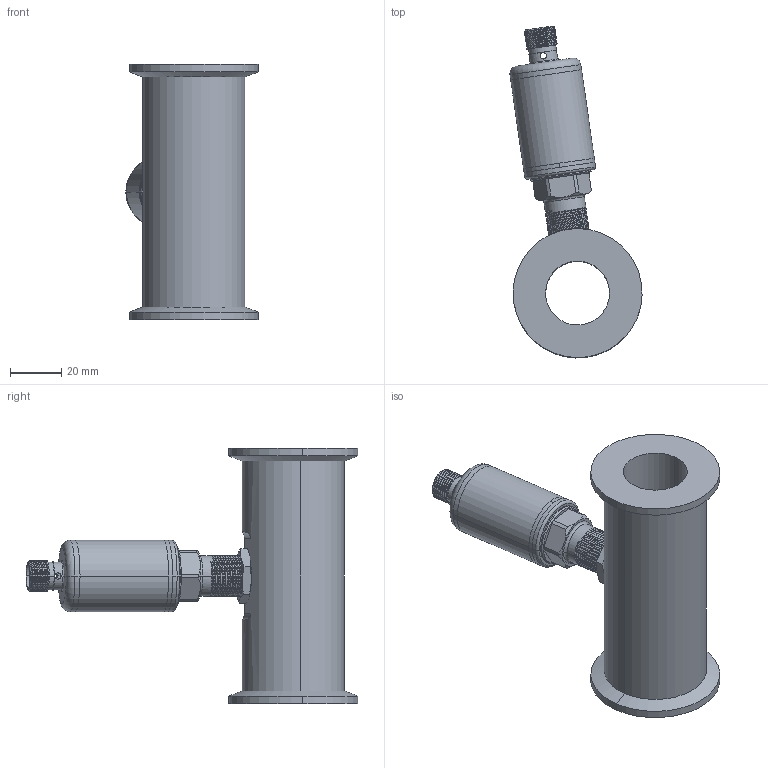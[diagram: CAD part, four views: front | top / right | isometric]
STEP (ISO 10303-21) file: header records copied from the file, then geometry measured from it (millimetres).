
FILE_DESCRIPTION (( 'STEP AP214' ), '1' );
FILE_NAME ('BFW1K25-J.STEP', '2026-01-20T07:23:04', ( '' ), ( '' ), 'SwSTEP 2.0', 'SolidWorks 2023', '' );
FILE_SCHEMA (( 'AUTOMOTIVE_DESIGN' ));
Length unit declared in the file: millimetre
Products named in the file (8): 连接管; 垫片; DN25卡盘主华东; BFW1K25-J; M16螺母; 探头; 壳体; 压力变送器
Assembly tree (7 placements, depth 3):
  BFW1K25-J
    压力变送器
      壳体
      垫片
      连接管
      探头
    M16螺母
    DN25卡盘主华东
Bounding box: 51.73 x 129.81 x 100 mm (x, y, z)
Volume: 93734.6 mm3; surface area: 42606.4 mm2
Topology: 6 solids, 6 shells, 239 faces, 600 edges, 385 vertices
Faces by surface type: cylinder 130, cone 52, plane 43, torus 8, bspline 6
Entity records: 11556 total; most frequent: CARTESIAN_POINT 5937, ORIENTED_EDGE 1200, DIRECTION 1072, EDGE_CURVE 600, AXIS2_PLACEMENT_3D 430, VERTEX_POINT 385, EDGE_LOOP 271, FACE_OUTER_BOUND 239
